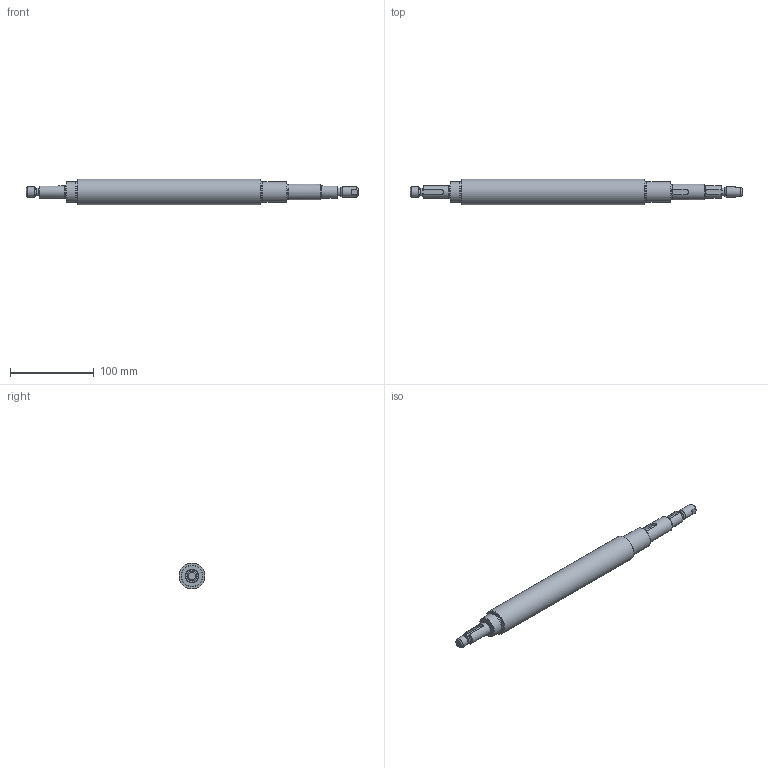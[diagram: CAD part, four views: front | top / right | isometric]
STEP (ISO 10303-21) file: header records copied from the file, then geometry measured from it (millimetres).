
FILE_DESCRIPTION(/* description */ (''),/* implementation_level */ '2;1');
FILE_NAME(/* name */ 'L:\DOKUMENT_DB\Arbeitsordner_Ba\Fachmodule\XXFMFL1_d\Links_Internet\Aufgabe_6-8\Gehaeusewelle.stp',/* time_stamp */ '2020-01-23T09:56:46+01:00',/* author */ ('ba'),/* organization */ (''),/* preprocessor_version */ 'ST-DEVELOPER v18',/* originating_system */ 'Autodesk Inventor 2020',/* authorisation */ '');
FILE_SCHEMA (('AUTOMOTIVE_DESIGN { 1 0 10303 214 3 1 1 }'));
Length unit declared in the file: millimetre
Products named in the file (1): Gehaeusewelle
Bounding box: 396 x 31 x 31 mm (x, y, z)
Volume: 210119.7 mm3; surface area: 32946.2 mm2
Topology: 1 solids, 1 shells, 66 faces, 208 edges, 149 vertices
Faces by surface type: plane 24, cylinder 19, torus 14, cone 9
Full cylindrical faces by diameter (mm): 9.4 x1, 12 x2, 14.6 x2, 15 x1, 18.4 x1, 19 x1, 24.4 x2, 25 x2, 31 x1
Entity records: 2573 total; most frequent: CARTESIAN_POINT 584, DIRECTION 442, ORIENTED_EDGE 416, EDGE_CURVE 208, AXIS2_PLACEMENT_3D 192, VERTEX_POINT 149, CIRCLE 125, EDGE_LOOP 71
